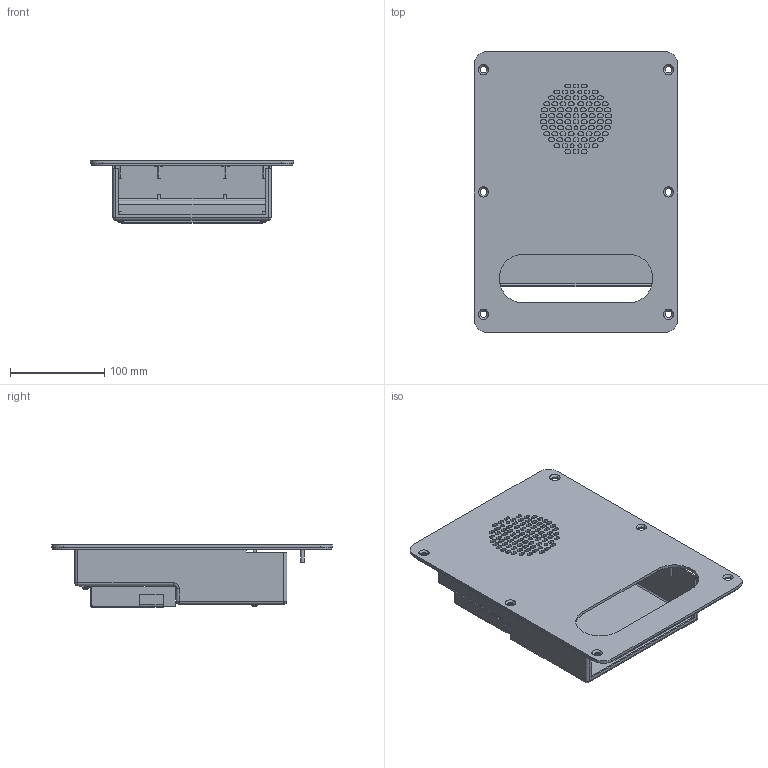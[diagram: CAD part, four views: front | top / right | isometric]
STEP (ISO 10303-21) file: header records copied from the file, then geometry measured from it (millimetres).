
FILE_DESCRIPTION (( 'STEP AP203' ), '1' );
FILE_NAME ('cad-153_IA4100_dwg.STEP', '2019-05-03T02:29:14', ( '' ), ( '' ), 'SwSTEP 2.0', 'SolidWorks 2018', '' );
FILE_SCHEMA (( 'CONFIG_CONTROL_DESIGN' ));
Length unit declared in the file: inch
Products named in the file (1): cad-153_IA4100_dwg
Bounding box: 215.9 x 298.45 x 66.27 mm (x, y, z)
Volume: 623390.3 mm3; surface area: 412746.6 mm2
Topology: 19 solids, 19 shells, 1628 faces, 4496 edges, 2928 vertices
Faces by surface type: plane 772, cylinder 555, bspline 169, cone 132
Entity records: 55703 total; most frequent: CARTESIAN_POINT 13502, ORIENTED_EDGE 8984, DIRECTION 8649, EDGE_CURVE 4492, AXIS2_PLACEMENT_3D 3073, VERTEX_POINT 2928, LINE 2503, VECTOR 2503
